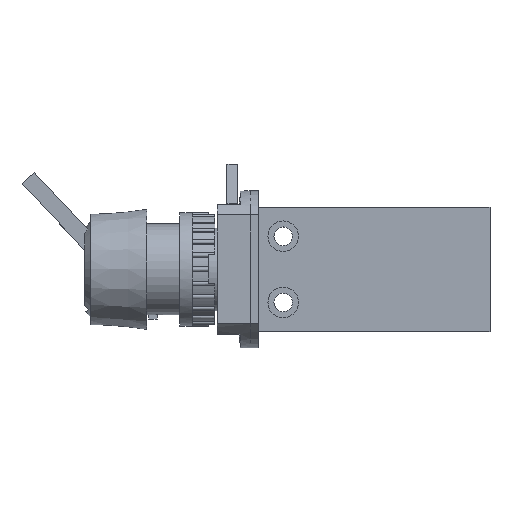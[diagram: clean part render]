
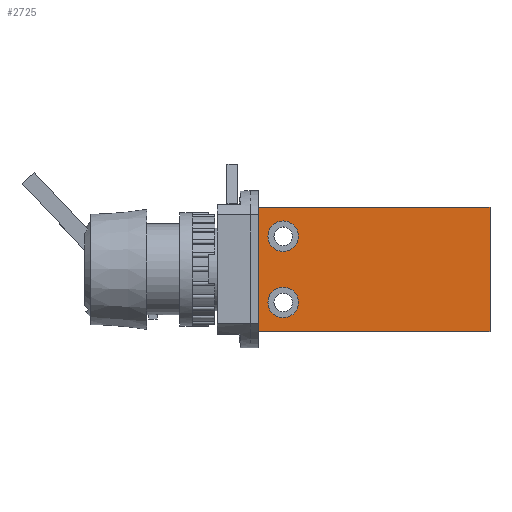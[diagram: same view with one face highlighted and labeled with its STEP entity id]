
A CAD part, top view. The second image highlights one B-rep face of the part: STEP entity #2725.
In plain terms, the highlighted planar face has unit normal (0, 0, 1) as drawn and (0, 0, -1) by its records, which use the part's own axes.
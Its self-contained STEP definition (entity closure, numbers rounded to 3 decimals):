
#152 = VERTEX_POINT ( 'NONE', #4195 ) ;
#285 = VERTEX_POINT ( 'NONE', #4328 ) ;
#288 = VERTEX_POINT ( 'NONE', #4331 ) ;
#289 = VERTEX_POINT ( 'NONE', #4332 ) ;
#734 = EDGE_LOOP ( 'NONE', ( #7151 ) ) ;
#740 = EDGE_LOOP ( 'NONE', ( #7153, #7154, #7155, #7156 ) ) ;
#750 = EDGE_LOOP ( 'NONE', ( #7152 ) ) ;
#1848 = EDGE_CURVE ( 'NONE', #152, #285, #9531, .T. ) ;
#1859 = EDGE_CURVE ( 'NONE', #13888, #13888, #9547, .T. ) ;
#1860 = EDGE_CURVE ( 'NONE', #13890, #13890, #9548, .T. ) ;
#1872 = EDGE_CURVE ( 'NONE', #289, #288, #9534, .T. ) ;
#1874 = EDGE_CURVE ( 'NONE', #288, #152, #9563, .T. ) ;
#1875 = EDGE_CURVE ( 'NONE', #285, #289, #9565, .T. ) ;
#2725 = ADVANCED_FACE ( 'NONE', ( #10098, #10097, #10102 ), #11786, .F. ) ;
#3498 = AXIS2_PLACEMENT_3D ( 'NONE', #10575, #10582, #10583 ) ;
#3499 = AXIS2_PLACEMENT_3D ( 'NONE', #10578, #10585, #10586 ) ;
#3682 = AXIS2_PLACEMENT_3D ( 'NONE', #11794, #11795, #11796 ) ;
#4195 = CARTESIAN_POINT ( 'NONE',  ( 28., -15., -8. ) ) ;
#4328 = CARTESIAN_POINT ( 'NONE',  ( 28., 15., -8. ) ) ;
#4331 = CARTESIAN_POINT ( 'NONE',  ( -28., -15., -8. ) ) ;
#4332 = CARTESIAN_POINT ( 'NONE',  ( -28., 15., -8. ) ) ;
#7151 = ORIENTED_EDGE ( 'NONE', *, *, #1859, .T. ) ;
#7152 = ORIENTED_EDGE ( 'NONE', *, *, #1860, .T. ) ;
#7153 = ORIENTED_EDGE ( 'NONE', *, *, #1872, .F. ) ;
#7154 = ORIENTED_EDGE ( 'NONE', *, *, #1875, .F. ) ;
#7155 = ORIENTED_EDGE ( 'NONE', *, *, #1848, .F. ) ;
#7156 = ORIENTED_EDGE ( 'NONE', *, *, #1874, .F. ) ;
#9528 = VECTOR ( 'NONE', #10511, 1000. ) ;
#9531 = LINE ( 'NONE', #10505, #9528 ) ;
#9534 = LINE ( 'NONE', #10620, #9559 ) ;
#9547 = CIRCLE ( 'NONE', #3498, 3.7 ) ;
#9548 = CIRCLE ( 'NONE', #3499, 3.7 ) ;
#9559 = VECTOR ( 'NONE', #10621, 1000. ) ;
#9563 = LINE ( 'NONE', #10624, #9564 ) ;
#9564 = VECTOR ( 'NONE', #10625, 1000. ) ;
#9565 = LINE ( 'NONE', #10626, #9566 ) ;
#9566 = VECTOR ( 'NONE', #10627, 1000. ) ;
#10097 = FACE_BOUND ( 'NONE', #750, .T. ) ;
#10098 = FACE_BOUND ( 'NONE', #734, .T. ) ;
#10102 = FACE_OUTER_BOUND ( 'NONE', #740, .T. ) ;
#10505 = CARTESIAN_POINT ( 'NONE',  ( 28., 15., -8. ) ) ;
#10511 = DIRECTION ( 'NONE',  ( 0., 1., 0. ) ) ;
#10575 = CARTESIAN_POINT ( 'NONE',  ( -22., 8., -8. ) ) ;
#10578 = CARTESIAN_POINT ( 'NONE',  ( -22., -8., -8. ) ) ;
#10582 = DIRECTION ( 'NONE',  ( 0., 0., 1. ) ) ;
#10583 = DIRECTION ( 'NONE',  ( -1., 0., 0. ) ) ;
#10585 = DIRECTION ( 'NONE',  ( 0., 0., 1. ) ) ;
#10586 = DIRECTION ( 'NONE',  ( -1., 0., 0. ) ) ;
#10620 = CARTESIAN_POINT ( 'NONE',  ( -28., 0., -8. ) ) ;
#10621 = DIRECTION ( 'NONE',  ( 0., -1., 0. ) ) ;
#10624 = CARTESIAN_POINT ( 'NONE',  ( 28., -15., -8. ) ) ;
#10625 = DIRECTION ( 'NONE',  ( 1., 0., 0. ) ) ;
#10626 = CARTESIAN_POINT ( 'NONE',  ( -28., 15., -8. ) ) ;
#10627 = DIRECTION ( 'NONE',  ( -1., 0., 0. ) ) ;
#11786 = PLANE ( 'NONE',  #3682 ) ;
#11794 = CARTESIAN_POINT ( 'NONE',  ( 0., 0., -8. ) ) ;
#11795 = DIRECTION ( 'NONE',  ( 0., 0., 1. ) ) ;
#11796 = DIRECTION ( 'NONE',  ( 0.707, 0.707, 0. ) ) ;
#13888 = VERTEX_POINT ( 'NONE', #13889 ) ;
#13889 = CARTESIAN_POINT ( 'NONE',  ( -25.7, 8., -8. ) ) ;
#13890 = VERTEX_POINT ( 'NONE', #13891 ) ;
#13891 = CARTESIAN_POINT ( 'NONE',  ( -25.7, -8., -8. ) ) ;
